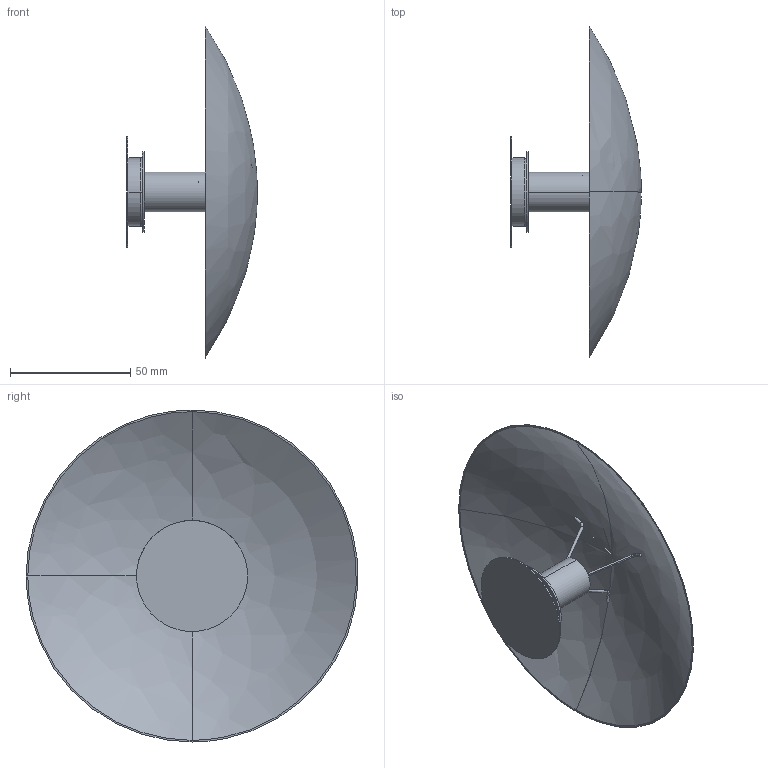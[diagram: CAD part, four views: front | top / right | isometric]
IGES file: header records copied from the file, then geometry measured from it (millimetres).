
Global section: file name: DiscoLarge; native system: Unknown; preprocessor: BodyObjectToATFToIges; author: Autodesk 3ds Max; organization: Autodesk; date: 20180316.102222; units: centimetre
Bounding box: 54.33 x 137.72 x 137.8 mm (x, y, z)
Volume: 17330.3 mm3; surface area: 41787.8 mm2
Topology: 8 solids, 8 shells, 65 faces, 126 edges, 72 vertices
Faces by surface type: bspline 65
